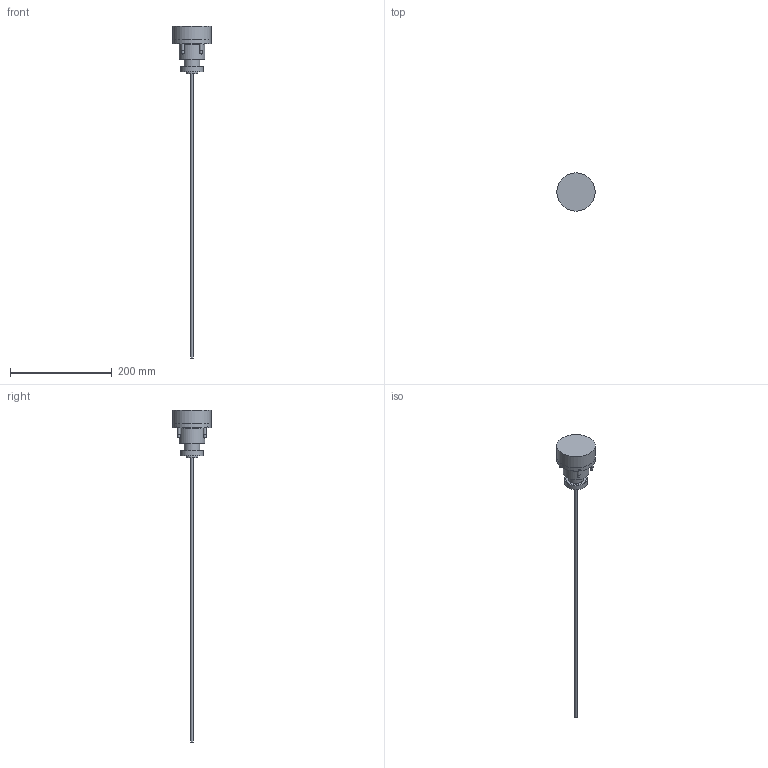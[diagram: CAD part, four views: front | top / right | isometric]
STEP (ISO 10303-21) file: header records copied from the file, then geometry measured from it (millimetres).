
FILE_DESCRIPTION(/* description */ (''),/* implementation_level */ '2;1');
FILE_NAME(/* name */ 'MVG40P1-5.0',/* time_stamp */ '2017-08-21T13:38:56+12:00',/* author */ (''),/* organization */ (''),/* preprocessor_version */ 'ST-DEVELOPER v9',/* originating_system */ 'UGS - NX 4.0',/* authorisation */ '');
FILE_SCHEMA (('CONFIG_CONTROL_DESIGN'));
Length unit declared in the file: millimetre
Products named in the file (1): mattAFE805lu
Bounding box: 75 x 75 x 651 mm (x, y, z)
Volume: 356699.8 mm3; surface area: 62406.9 mm2
Topology: 8 solids, 8 shells, 82 faces, 149 edges, 99 vertices
Faces by surface type: cylinder 36, plane 32, cone 12, torus 2
Full cylindrical faces by diameter (mm): 2 x4, 5 x5, 6 x4, 6.5 x4, 8 x1, 10 x4, 11 x4, 23 x1, 25 x1, 30 x1, 33 x1, 40 x1, 45 x1, 46 x1, 50 x1, 74.8 x1, 75 x1
Entity records: 1724 total; most frequent: DIRECTION 322, CARTESIAN_POINT 247, AXIS2_PLACEMENT_3D 161, EDGE_LOOP 156, ORIENTED_EDGE 156, FACE_BOUND 120, VERTEX_POINT 86, ADVANCED_FACE 82
